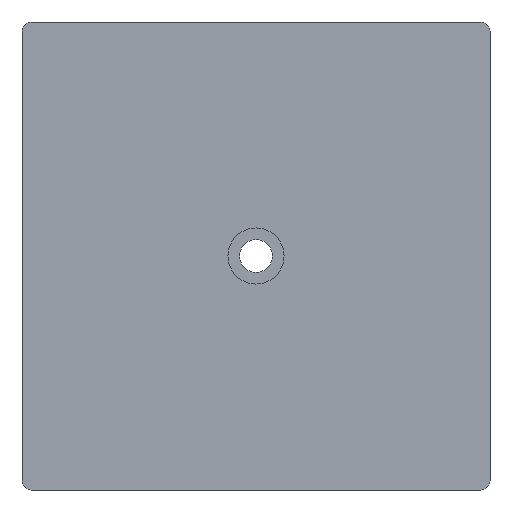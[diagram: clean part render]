
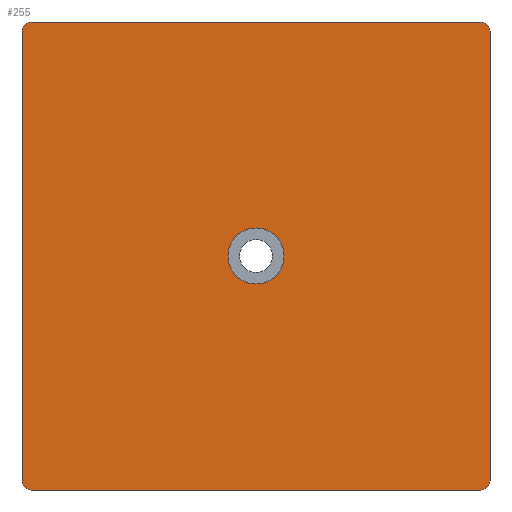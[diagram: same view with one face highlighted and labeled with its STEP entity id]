
A CAD part, left-side view. The second image highlights one B-rep face of the part: STEP entity #255.
In plain terms, the highlighted planar face has unit normal (-1, 0, 0).
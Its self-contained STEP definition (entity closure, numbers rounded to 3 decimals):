
#3 = CARTESIAN_POINT ( 'NONE',  ( 804.699, -28.429, -48. ) ) ;
#5 = CARTESIAN_POINT ( 'NONE',  ( 804.699, -30.429, 48. ) ) ;
#7 = CARTESIAN_POINT ( 'NONE',  ( 804.699, 19.571, -6. ) ) ;
#23 = VERTEX_POINT ( 'NONE', #523 ) ;
#27 = DIRECTION ( 'NONE',  ( 0., 0., 1. ) ) ;
#29 = VECTOR ( 'NONE', #348, 1000. ) ;
#34 = DIRECTION ( 'NONE',  ( 0., -1., 0. ) ) ;
#39 = VERTEX_POINT ( 'NONE', #675 ) ;
#51 = CIRCLE ( 'NONE', #315, 2. ) ;
#53 = LINE ( 'NONE', #403, #29 ) ;
#59 = ORIENTED_EDGE ( 'NONE', *, *, #344, .F. ) ;
#61 = DIRECTION ( 'NONE',  ( 1., 0., 0. ) ) ;
#62 = CIRCLE ( 'NONE', #591, 6. ) ;
#69 = VECTOR ( 'NONE', #155, 1000. ) ;
#75 = AXIS2_PLACEMENT_3D ( 'NONE', #273, #166, #538 ) ;
#79 = DIRECTION ( 'NONE',  ( 0., 1., 0. ) ) ;
#103 = CARTESIAN_POINT ( 'NONE',  ( 804.699, -28.429, 50. ) ) ;
#114 = DIRECTION ( 'NONE',  ( 0., -1., 0. ) ) ;
#125 = AXIS2_PLACEMENT_3D ( 'NONE', #3, #385, #445 ) ;
#126 = AXIS2_PLACEMENT_3D ( 'NONE', #668, #361, #27 ) ;
#135 = VERTEX_POINT ( 'NONE', #359 ) ;
#149 = ORIENTED_EDGE ( 'NONE', *, *, #571, .F. ) ;
#155 = DIRECTION ( 'NONE',  ( 0., -1., 0. ) ) ;
#166 = DIRECTION ( 'NONE',  ( -1., 0., 0. ) ) ;
#168 = CARTESIAN_POINT ( 'NONE',  ( 804.699, 69.571, -48. ) ) ;
#170 = CIRCLE ( 'NONE', #258, 2. ) ;
#171 = DIRECTION ( 'NONE',  ( -1., 0., 0. ) ) ;
#175 = EDGE_CURVE ( 'NONE', #23, #479, #218, .T. ) ;
#182 = FACE_BOUND ( 'NONE', #495, .T. ) ;
#192 = EDGE_CURVE ( 'NONE', #39, #398, #349, .T. ) ;
#203 = ORIENTED_EDGE ( 'NONE', *, *, #640, .T. ) ;
#207 = VECTOR ( 'NONE', #79, 1000. ) ;
#218 = LINE ( 'NONE', #580, #69 ) ;
#228 = ORIENTED_EDGE ( 'NONE', *, *, #280, .T. ) ;
#230 = EDGE_CURVE ( 'NONE', #485, #243, #62, .T. ) ;
#243 = VERTEX_POINT ( 'NONE', #7 ) ;
#255 = ADVANCED_FACE ( 'NONE', ( #182, #595 ), #444, .T. ) ;
#256 = AXIS2_PLACEMENT_3D ( 'NONE', #317, #684, #374 ) ;
#258 = AXIS2_PLACEMENT_3D ( 'NONE', #381, #171, #114 ) ;
#259 = VERTEX_POINT ( 'NONE', #168 ) ;
#271 = DIRECTION ( 'NONE',  ( 0., 0., 1. ) ) ;
#273 = CARTESIAN_POINT ( 'NONE',  ( 804.699, 19.571, 0. ) ) ;
#280 = EDGE_CURVE ( 'NONE', #23, #135, #170, .T. ) ;
#315 = AXIS2_PLACEMENT_3D ( 'NONE', #679, #366, #34 ) ;
#317 = CARTESIAN_POINT ( 'NONE',  ( 804.699, -28.429, 48. ) ) ;
#328 = VERTEX_POINT ( 'NONE', #5 ) ;
#344 = EDGE_CURVE ( 'NONE', #328, #398, #53, .T. ) ;
#345 = ORIENTED_EDGE ( 'NONE', *, *, #507, .T. ) ;
#348 = DIRECTION ( 'NONE',  ( 0., 0., -1. ) ) ;
#349 = CIRCLE ( 'NONE', #125, 2. ) ;
#352 = LINE ( 'NONE', #662, #207 ) ;
#359 = CARTESIAN_POINT ( 'NONE',  ( 804.699, 69.571, 48. ) ) ;
#361 = DIRECTION ( 'NONE',  ( 1., 0., 0. ) ) ;
#366 = DIRECTION ( 'NONE',  ( -1., 0., 0. ) ) ;
#374 = DIRECTION ( 'NONE',  ( 0., -1., 0. ) ) ;
#380 = CARTESIAN_POINT ( 'NONE',  ( 804.699, -30.429, -48. ) ) ;
#381 = CARTESIAN_POINT ( 'NONE',  ( 804.699, 67.571, 48. ) ) ;
#385 = DIRECTION ( 'NONE',  ( -1., 0., 0. ) ) ;
#387 = CARTESIAN_POINT ( 'NONE',  ( 804.699, 19.571, 0. ) ) ;
#398 = VERTEX_POINT ( 'NONE', #380 ) ;
#403 = CARTESIAN_POINT ( 'NONE',  ( 804.699, -30.429, -50. ) ) ;
#407 = VECTOR ( 'NONE', #271, 1000. ) ;
#409 = ORIENTED_EDGE ( 'NONE', *, *, #230, .T. ) ;
#429 = ORIENTED_EDGE ( 'NONE', *, *, #450, .T. ) ;
#444 = PLANE ( 'NONE',  #75 ) ;
#445 = DIRECTION ( 'NONE',  ( 0., -1., 0. ) ) ;
#450 = EDGE_CURVE ( 'NONE', #328, #479, #630, .T. ) ;
#464 = CARTESIAN_POINT ( 'NONE',  ( 804.699, 67.571, -50. ) ) ;
#473 = CARTESIAN_POINT ( 'NONE',  ( 804.699, 69.571, -50. ) ) ;
#479 = VERTEX_POINT ( 'NONE', #103 ) ;
#485 = VERTEX_POINT ( 'NONE', #587 ) ;
#489 = EDGE_CURVE ( 'NONE', #39, #517, #352, .T. ) ;
#495 = EDGE_LOOP ( 'NONE', ( #345, #409 ) ) ;
#507 = EDGE_CURVE ( 'NONE', #243, #485, #611, .T. ) ;
#511 = EDGE_LOOP ( 'NONE', ( #149, #203, #657, #667, #59, #429, #562, #228 ) ) ;
#517 = VERTEX_POINT ( 'NONE', #464 ) ;
#523 = CARTESIAN_POINT ( 'NONE',  ( 804.699, 67.571, 50. ) ) ;
#538 = DIRECTION ( 'NONE',  ( 0., -1., 0. ) ) ;
#547 = LINE ( 'NONE', #473, #407 ) ;
#562 = ORIENTED_EDGE ( 'NONE', *, *, #175, .F. ) ;
#571 = EDGE_CURVE ( 'NONE', #259, #135, #547, .T. ) ;
#580 = CARTESIAN_POINT ( 'NONE',  ( 804.699, 69.571, 50. ) ) ;
#587 = CARTESIAN_POINT ( 'NONE',  ( 804.699, 19.571, 6. ) ) ;
#591 = AXIS2_PLACEMENT_3D ( 'NONE', #387, #61, #645 ) ;
#595 = FACE_OUTER_BOUND ( 'NONE', #511, .T. ) ;
#611 = CIRCLE ( 'NONE', #126, 6. ) ;
#630 = CIRCLE ( 'NONE', #256, 2. ) ;
#640 = EDGE_CURVE ( 'NONE', #259, #517, #51, .T. ) ;
#645 = DIRECTION ( 'NONE',  ( 0., 0., 1. ) ) ;
#657 = ORIENTED_EDGE ( 'NONE', *, *, #489, .F. ) ;
#662 = CARTESIAN_POINT ( 'NONE',  ( 804.699, 69.571, -50. ) ) ;
#667 = ORIENTED_EDGE ( 'NONE', *, *, #192, .T. ) ;
#668 = CARTESIAN_POINT ( 'NONE',  ( 804.699, 19.571, 0. ) ) ;
#675 = CARTESIAN_POINT ( 'NONE',  ( 804.699, -28.429, -50. ) ) ;
#679 = CARTESIAN_POINT ( 'NONE',  ( 804.699, 67.571, -48. ) ) ;
#684 = DIRECTION ( 'NONE',  ( -1., 0., 0. ) ) ;
